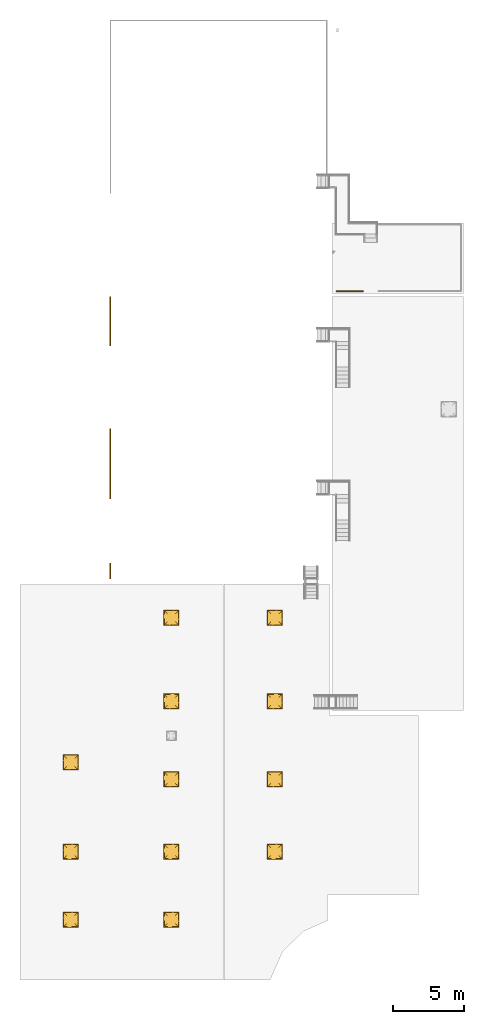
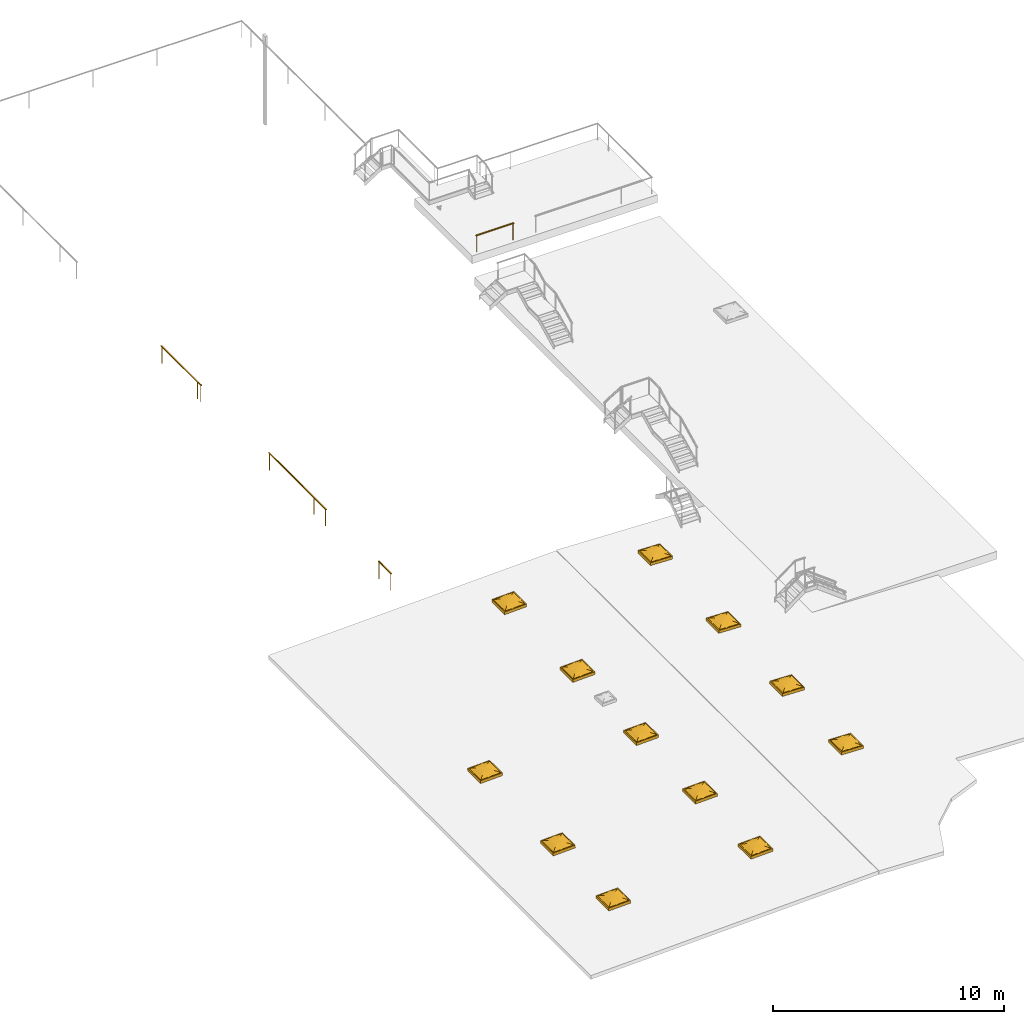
# One storey, part 5 of 15: 12 windows, 4 railings.
"""IFC2X3 building model written with IfcOpenShell, lengths in centimetres."""

import ifcopenshell
import ifcopenshell.guid

model = None  # the IFC model being written
_history = None  # IfcOwnerHistory: only IFC2X3 demands one
_inside = {}  # id of a spatial element -> (the spatial element, [elements in it])
_under = {}  # id of a project, library or spatial element -> (it, [spatial elements below it])
_declared = {}  # id of a project -> (the project, [libraries it declares])
_typed = {}  # id of a type object -> (the type object, [elements of that type])
_made_of = {}  # id of a material, layer set ... -> (it, [elements and type objects made of it])


def new_model(schema):
    """Start an empty IFC model of exactly this schema.

    Asked for "IFC4X3", IfcOpenShell would pick the latest addendum, in which some entities
    have other attributes; the version numbers below select the first issue.
    IFC2X3 requires an IfcOwnerHistory on every rooted entity: one is made here for all.
    """
    global model, _history
    if schema == "IFC4X3":
        model = ifcopenshell.file(schema_version=(4, 3, 0, 0))
    else:
        model = ifcopenshell.file(schema=schema)
    _inside.clear()
    _under.clear()
    _declared.clear()
    _typed.clear()
    _made_of.clear()
    _history = None
    if model.schema == "IFC2X3":
        org = make("IfcOrganization", Name="unknown")
        user = make(
            "IfcPersonAndOrganization",
            ThePerson=make("IfcPerson", FamilyName="unknown"),
            TheOrganization=org,
        )
        app = make(
            "IfcApplication",
            ApplicationDeveloper=org,
            Version="unknown",
            ApplicationFullName="unknown",
            ApplicationIdentifier="unknown",
        )
        _history = make(
            "IfcOwnerHistory",
            OwningUser=user,
            OwningApplication=app,
            ChangeAction="ADDED",
            CreationDate=0,
        )
    return model


def make(cls, **values):
    """One entity of the class cls with the attributes given. An attribute that is None is left unset."""
    return model.create_entity(
        cls, **{name: value for name, value in values.items() if value is not None}
    )


def entity(cls, *values):
    """Any entity or typed value of the class cls, its attributes in the order of the schema. None: left unset."""
    e = model.create_entity(cls)
    for i, value in enumerate(values):
        if value is not None:
            e[i] = value
    return e


def rooted(cls, **values):
    """An entity with a GlobalId (a new one), such as an element, a storey or a relation."""
    return make(cls, GlobalId=ifcopenshell.guid.new(), OwnerHistory=_history, **values)


def si_unit(unit_type, name, prefix=None):
    """IfcSIUnit, for example si_unit("LENGTHUNIT", "METRE", prefix="MILLI")."""
    return make("IfcSIUnit", UnitType=unit_type, Prefix=prefix, Name=name)


def converted_unit(unit_type, name, factor, base, dimensions=None, offset=None):
    """IfcConversionBasedUnit, such as the inch: factor (a typed value) times the base unit."""
    return make(
        "IfcConversionBasedUnit"
        if offset is None
        else "IfcConversionBasedUnitWithOffset",
        ConversionOffset=offset,
        Dimensions=None
        if dimensions is None
        else entity("IfcDimensionalExponents", *dimensions),
        UnitType=unit_type,
        Name=name,
        ConversionFactor=make(
            "IfcMeasureWithUnit", ValueComponent=factor, UnitComponent=base
        ),
    )


def derived_unit(unit_type, elements):
    """IfcDerivedUnit: a product of units, each with its exponent."""
    return make(
        "IfcDerivedUnit",
        Elements=[
            make("IfcDerivedUnitElement", Unit=unit, Exponent=power)
            for unit, power in elements
        ],
        UnitType=unit_type,
    )


def assignment(units):
    """IfcUnitAssignment: the units of a project."""
    return None if units is None else make("IfcUnitAssignment", Units=units)


def point(xyz):
    """IfcCartesianPoint."""
    return None if xyz is None else make("IfcCartesianPoint", Coordinates=xyz)


def direction(xyz):
    """IfcDirection."""
    return None if xyz is None else make("IfcDirection", DirectionRatios=xyz)


def frame(location, z_axis=None, x_axis=None):
    """IfcAxis2Placement3D, a coordinate frame: its origin and axes. An axis left out is left unset."""
    return make(
        "IfcAxis2Placement3D",
        Location=point(location),
        Axis=direction(z_axis),
        RefDirection=direction(x_axis),
    )


def frame_2d(location, x_axis=None):
    """IfcAxis2Placement2D, a coordinate frame in the plane: its origin and x axis."""
    return make(
        "IfcAxis2Placement2D", Location=point(location), RefDirection=direction(x_axis)
    )


def origin():
    """The frame at (0, 0, 0) with its axes left unset."""
    return frame((0.0, 0.0, 0.0))


def origin_2d_with_axis():
    """The frame at (0, 0) in the plane with the x axis (1, 0) written out."""
    return frame_2d((0.0, 0.0), x_axis=(1.0, 0.0))


def place(relative_to, where):
    """IfcLocalPlacement: puts the frame where relative to a parent placement (None: the world)."""
    return make(
        "IfcLocalPlacement", PlacementRelTo=relative_to, RelativePlacement=where
    )


def context(
    kind, dimensions, precision=None, world=None, true_north=None, identifier=None
):
    """IfcGeometricRepresentationContext, for example the 3D "Model" context."""
    return make(
        "IfcGeometricRepresentationContext",
        ContextIdentifier=identifier,
        ContextType=kind,
        CoordinateSpaceDimension=dimensions,
        Precision=precision,
        WorldCoordinateSystem=world,
        TrueNorth=true_north,
    )


def subcontext(parent, identifier, kind, view, scale=None):
    """IfcGeometricRepresentationSubContext, for example "Body" below "Model"."""
    return make(
        "IfcGeometricRepresentationSubContext",
        ContextIdentifier=identifier,
        ContextType=kind,
        ParentContext=parent,
        TargetScale=scale,
        TargetView=view,
    )


def project(units=None, contexts=None):
    """IfcProject with its units and contexts."""
    return rooted(
        "IfcProject",
        Name="project",
        RepresentationContexts=contexts,
        UnitsInContext=assignment(units),
    )


def spatial(cls, under=None, at=None, **own):
    """A site, building, storey or space (cls), placed at a placement, below another one or the project."""
    s = rooted(cls, ObjectPlacement=at, **own)
    if under is not None:
        _under.setdefault(under.id(), (under, []))[1].append(s)
    return s


def polyline(points):
    """IfcPolyline through the points."""
    return make("IfcPolyline", Points=[point(p) for p in points])


def profile(cls, at=None, kind="AREA", **sizes):
    """A parametric profile (cls). Its sizes go by their IFC names, for example OverallWidth=200.0."""
    return make(cls, ProfileType=kind, Position=at, **sizes)


def rectangle(**sizes):
    """IfcRectangleProfileDef."""
    return profile("IfcRectangleProfileDef", **sizes)


def outline(outer, holes=None, kind="AREA"):
    """IfcArbitraryClosedProfileDef: a profile drawn as a closed curve; with holes, ...WithVoids."""
    if holes is None:
        return make("IfcArbitraryClosedProfileDef", ProfileType=kind, OuterCurve=outer)
    return make(
        "IfcArbitraryProfileDefWithVoids",
        ProfileType=kind,
        OuterCurve=outer,
        InnerCurves=holes,
    )


def extrude(swept, where, along, depth):
    """IfcExtrudedAreaSolid: the profile swept, set in the frame where, extruded along a direction by depth."""
    return make(
        "IfcExtrudedAreaSolid",
        SweptArea=swept,
        Position=where,
        ExtrudedDirection=direction(along),
        Depth=depth,
    )


def faces_of(points, faces, orient=None, outer=None):
    """IfcFace entities. A face is a list of loops; a loop is a list of indices into points, from 0.

    orient and outer hold one flag for each loop. By default every Orientation is true, the
    first loop of a face is its IfcFaceOuterBound and the others are IfcFaceBound.
    """
    made = []
    for i, loops in enumerate(faces):
        bounds = []
        for j, loop in enumerate(loops):
            is_outer = j == 0 if outer is None else outer[i][j]
            bounds.append(
                make(
                    "IfcFaceOuterBound" if is_outer else "IfcFaceBound",
                    Bound=make("IfcPolyLoop", Polygon=[points[k] for k in loop]),
                    Orientation=True if orient is None else orient[i][j],
                )
            )
        made.append(make("IfcFace", Bounds=bounds))
    return made


def faceted_brep(points, faces, orient=None, outer=None, voids=None):
    """IfcFacetedBrep: a solid bounded by flat faces; with voids (closed shells), ...WithVoids."""
    shared = [point(p) for p in points]
    hull = make("IfcClosedShell", CfsFaces=faces_of(shared, faces, orient, outer))
    if voids is None:
        return make("IfcFacetedBrep", Outer=hull)
    return make(
        "IfcFacetedBrepWithVoids",
        Outer=hull,
        Voids=[
            make(cls, CfsFaces=faces_of(shared, fs, o, b)) for cls, fs, o, b in voids
        ],
    )


def shape(context_of_items, identifier, shape_type, items):
    """IfcShapeRepresentation: the items that make up one representation, for example the "Body"."""
    return make(
        "IfcShapeRepresentation",
        ContextOfItems=context_of_items,
        RepresentationIdentifier=identifier,
        RepresentationType=shape_type,
        Items=items,
    )


def source(mapping_origin, context_of_items, identifier, shape_type, items):
    """IfcRepresentationMap: a shape defined once, which mapped items show again and again."""
    return make(
        "IfcRepresentationMap",
        MappingOrigin=mapping_origin,
        MappedRepresentation=shape(context_of_items, identifier, shape_type, items),
    )


def transform(
    local_origin,
    x_axis=None,
    y_axis=None,
    z_axis=None,
    scale=None,
    scale2=None,
    scale3=None,
    uniform=True,
):
    """IfcCartesianTransformationOperator3D, or its non-uniform kind. x_axis, y_axis, z_axis: its Axis1, 2, 3."""
    if uniform:
        return make(
            "IfcCartesianTransformationOperator3D",
            Axis1=direction(x_axis),
            Axis2=direction(y_axis),
            LocalOrigin=point(local_origin),
            Scale=scale,
            Axis3=direction(z_axis),
        )
    return make(
        "IfcCartesianTransformationOperator3DnonUniform",
        Axis1=direction(x_axis),
        Axis2=direction(y_axis),
        LocalOrigin=point(local_origin),
        Scale=scale,
        Axis3=direction(z_axis),
        Scale2=scale2,
        Scale3=scale3,
    )


def mapped(mapping_source, mapping_target):
    """IfcMappedItem: shows the shape of a source again, moved by a transform."""
    return make(
        "IfcMappedItem", MappingSource=mapping_source, MappingTarget=mapping_target
    )


def material(Name=None, Category=None):
    """IfcMaterial."""
    return make("IfcMaterial", Name=Name, Category=Category)


def material_list(materials):
    """IfcMaterialList."""
    return make("IfcMaterialList", Materials=materials)


def made_of(thing, what):
    """Note that an element or type object is made of a material, layer set ...; save() writes the relation."""
    if what is not None:
        _made_of.setdefault(what.id(), (what, []))[1].append(thing)
    return thing


def type_object(cls, material=None, **own):
    """A type object (cls), such as IfcWallType, which elements share."""
    return made_of(rooted(cls, **own), material)


def type_shapes(of_type, sources):
    """Give a type object the sources (RepresentationMaps) that its elements show as mapped items."""
    of_type.RepresentationMaps = sources


def element(
    cls,
    number,
    at=None,
    inside=None,
    cuts=None,
    type_object=None,
    material=None,
    context=None,
    identifier="Body",
    shape_type=None,
    held_by="IfcProductDefinitionShape",
    body=None,
    shapes=None,
    **own,
):
    """One element of the class cls, such as IfcWall. Its Tag is "e" and its number.

    at: its placement. inside: the storey or other place that contains it. cuts: it is an
    opening in that element (IfcRelVoidsElement). A single representation is given by context,
    identifier, shape_type and body (its items); several are given by shapes. held_by: the class
    of the entity that holds the representations. save() writes the other relations.
    """
    e = rooted(cls, Tag="e%d" % number, ObjectPlacement=at, **own)
    if body is not None:
        shapes = [shape(context, identifier, shape_type, body)]
    if shapes is not None:
        e.Representation = make(held_by, Representations=shapes)
    if inside is not None:
        _inside.setdefault(inside.id(), (inside, []))[1].append(e)
    if cuts is not None:
        rooted(
            "IfcRelVoidsElement", RelatingBuildingElement=cuts, RelatedOpeningElement=e
        )
    if type_object is not None:
        _typed.setdefault(type_object.id(), (type_object, []))[1].append(e)
    return made_of(e, material)


def aggregate(whole, parts):
    """IfcRelAggregates: a whole, such as a stair, and the parts it consists of."""
    return rooted("IfcRelAggregates", RelatingObject=whole, RelatedObjects=parts)


def save(model, path):
    """Write the relations noted so far, then the file.

    IfcRelAggregates (storeys below a building ...), IfcRelContainedInSpatialStructure (elements
    in a storey), IfcRelDefinesByType, IfcRelAssociatesMaterial and IfcRelDeclares: one each for
    every whole, place, type object, material and project.
    """
    for whole, parts in _under.values():
        aggregate(whole, parts)
    for where, things in _inside.values():
        rooted(
            "IfcRelContainedInSpatialStructure",
            RelatedElements=things,
            RelatingStructure=where,
        )
    for kind, things in _typed.values():
        rooted("IfcRelDefinesByType", RelatedObjects=things, RelatingType=kind)
    for what, things in _made_of.values():
        rooted("IfcRelAssociatesMaterial", RelatedObjects=things, RelatingMaterial=what)
    for by, libraries in _declared.values():
        rooted("IfcRelDeclares", RelatingContext=by, RelatedDefinitions=libraries)
    model.write(path)


model = new_model("IFC2X3")

# Units and contexts
model_context = context("Model", 3, precision=0.001, world=origin(), true_north=direction((6.12303176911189e-17, 1.0)))
body_context = subcontext(model_context, "Body", "Model", "MODEL_VIEW")
ifc_project = project(units=[si_unit("LENGTHUNIT", "METRE", prefix="CENTI"), si_unit("AREAUNIT", "SQUARE_METRE"), si_unit("VOLUMEUNIT", "CUBIC_METRE"), converted_unit("PLANEANGLEUNIT", "DEGREE", entity("IfcRatioMeasure", 0.0174532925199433), si_unit("PLANEANGLEUNIT", "RADIAN"), dimensions=[0, 0, 0, 0, 0, 0, 0]), si_unit("MASSUNIT", "GRAM", prefix="KILO"), si_unit("TIMEUNIT", "SECOND"), si_unit("FREQUENCYUNIT", "HERTZ"), si_unit("THERMODYNAMICTEMPERATUREUNIT", "DEGREE_CELSIUS"), derived_unit("THERMALTRANSMITTANCEUNIT", [(si_unit("MASSUNIT", "GRAM", prefix="KILO"), 1), (si_unit("THERMODYNAMICTEMPERATUREUNIT", "KELVIN"), -1), (si_unit("TIMEUNIT", "SECOND"), -3)]), derived_unit("VOLUMETRICFLOWRATEUNIT", [(si_unit("LENGTHUNIT", "METRE"), 3), (si_unit("TIMEUNIT", "SECOND"), -1)]), si_unit("ELECTRICCURRENTUNIT", "AMPERE"), si_unit("ELECTRICVOLTAGEUNIT", "VOLT"), si_unit("POWERUNIT", "WATT"), si_unit("FORCEUNIT", "NEWTON", prefix="KILO"), si_unit("ILLUMINANCEUNIT", "LUX"), si_unit("LUMINOUSFLUXUNIT", "LUMEN"), si_unit("LUMINOUSINTENSITYUNIT", "CANDELA"), derived_unit("USERDEFINED", [(si_unit("MASSUNIT", "GRAM", prefix="KILO"), -1), (si_unit("LENGTHUNIT", "METRE"), -2), (si_unit("TIMEUNIT", "SECOND"), 3), (si_unit("LUMINOUSFLUXUNIT", "LUMEN"), 1)]), derived_unit("LINEARVELOCITYUNIT", [(si_unit("LENGTHUNIT", "METRE"), 1), (si_unit("TIMEUNIT", "SECOND"), -1)]), si_unit("PRESSUREUNIT", "PASCAL"), derived_unit("USERDEFINED", [(si_unit("LENGTHUNIT", "METRE"), -2), (si_unit("MASSUNIT", "GRAM", prefix="KILO"), 1), (si_unit("TIMEUNIT", "SECOND"), -2)])], contexts=[model_context])

# Site, building, storey
site_placement = place(None, frame((8.62739174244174, -249.285249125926, 0.0)))
site = spatial("IfcSite", under=ifc_project, at=site_placement, Name="Default", CompositionType="ELEMENT")
building_placement = place(site_placement, origin())
building = spatial("IfcBuilding", under=site, at=building_placement, CompositionType="ELEMENT")
storey_placement = place(building_placement, frame((0.0, 0.0, 801.0)))
storey = spatial("IfcBuildingStorey", under=building, at=storey_placement, Name="Acrotère E3", CompositionType="ELEMENT", Elevation=801.0)

# Windows
ifc_material_1 = material(Name="Verre")
ifc_material_2 = material(Name="Métal - Aluminium")
ifc_material_list_1 = material_list([ifc_material_1, ifc_material_2])
ifc_material_list_2 = material_list([ifc_material_1, ifc_material_2])
window_style = type_object("IfcWindowStyle", Name="1000mm x 1000mm", ConstructionType="NOTDEFINED", OperationType="NOTDEFINED", ParameterTakesPrecedence=False, Sizeable=False, material=ifc_material_list_2)
shared_shape = source(origin(), body_context, "Body", "Brep", [
    faceted_brep([(-8.01000000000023, -25.9900000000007, 410.759999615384), (-7.99000000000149, -25.9900000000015, 410.759999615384), (2.26188191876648, -15.7381180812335, 410.354343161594), (-18.2618819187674, -15.7381180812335, 410.354343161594), (12.4498452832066, -5.55015471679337, 409.141477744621), (-28.4498452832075, -5.55015471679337, 409.141477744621), (22.5104319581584, 4.5104319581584, 407.128957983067), (-38.5104319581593, 4.5104319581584, 407.128957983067), (4.94759751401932, 24.0, 400.759999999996), (-48.3809772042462, 14.3809772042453, 404.329319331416), (32.3809772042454, 14.3809772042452, 404.329319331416), (42.0, 24.0, 400.759999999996), (-58.0, 24.0, 400.759999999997), (-58.0, 24.0, 400.193095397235), (42.0, 24.0, 400.193095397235), (-20.820830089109, 24.0, 400.193095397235), (-48.3842611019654, 14.3842611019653, 403.777786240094), (-38.5148298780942, 4.51482987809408, 406.589684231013), (22.5148298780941, 4.51482987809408, 406.589684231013), (32.3842611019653, 14.3842611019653, 403.777786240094), (12.4537057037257, -5.5462942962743, 408.611125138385), (-28.4537057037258, -5.5462942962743, 408.611125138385), (-18.2640921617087, -15.7359078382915, 409.829410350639), (2.26409216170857, -15.7359078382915, 409.829410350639), (-8.01000000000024, -25.9899999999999, 410.236886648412), (-7.98999999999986, -25.9899999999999, 410.236886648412), (-7.99000000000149, -26.0099999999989, 410.759999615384), (2.26188191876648, -36.2618819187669, 410.354343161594), (12.4498452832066, -46.4498452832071, 409.141477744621), (22.5104319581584, -56.5104319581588, 407.128957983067), (42.0, -38.9475975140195, 400.759999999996), (32.3809772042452, -66.3809772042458, 404.329319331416), (42.0, -76.0, 400.759999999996), (42.0, -76.0, 400.193095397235), (42.0, -13.1791699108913, 400.193095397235), (22.5148298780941, -56.5148298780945, 406.589684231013), (32.3842611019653, -66.3842611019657, 403.777786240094), (12.4537057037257, -46.4537057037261, 408.611125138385), (2.26409216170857, -36.264092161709, 409.829410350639), (-7.98999999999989, -26.0100000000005, 410.236886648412), (-8.00999999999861, -26.0099999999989, 410.759999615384), (-18.2618819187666, -36.2618819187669, 410.354343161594), (-28.4498452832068, -46.449845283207, 409.141477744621), (-38.5104319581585, -56.5104319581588, 407.128957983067), (-20.9475975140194, -76.0, 400.759999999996), (-48.3809772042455, -66.3809772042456, 404.329319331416), (-58.0, -76.0, 400.759999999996), (-58.0, -76.0, 400.193095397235), (4.82083008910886, -76.0, 400.193095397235), (-38.5148298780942, -56.5148298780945, 406.589684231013), (-48.3842611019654, -66.3842611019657, 403.777786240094), (-28.4537057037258, -46.4537057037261, 408.611125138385), (-18.2640921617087, -36.264092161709, 409.829410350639), (-8.01000000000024, -26.0100000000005, 410.236886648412), (-58.0, -13.052402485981, 400.759999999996), (-58.0, -38.8208300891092, 400.193095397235)], [[[0, 1, 2, 3]], [[3, 2, 4, 5]], [[4, 6, 7, 5]], [[8, 9, 7]], [[6, 10, 8]], [[10, 11, 8]], [[9, 8, 12]], [[7, 6, 8]], [[13, 12, 8, 11, 14, 15]], [[16, 15, 17]], [[18, 17, 15]], [[13, 15, 16]], [[15, 14, 19]], [[19, 18, 15]], [[18, 20, 21, 17]], [[22, 21, 20, 23]], [[24, 22, 23, 25]], [[0, 24, 25, 1]], [[1, 26, 27, 2]], [[2, 27, 28, 4]], [[28, 29, 6, 4]], [[30, 10, 6]], [[29, 31, 30]], [[31, 32, 30]], [[10, 30, 11]], [[6, 29, 30]], [[11, 30, 32, 33, 34, 14]], [[19, 34, 18]], [[35, 18, 34]], [[14, 34, 19]], [[34, 33, 36]], [[36, 35, 34]], [[35, 37, 20, 18]], [[23, 20, 37, 38]], [[25, 23, 38, 39]], [[1, 25, 39, 26]], [[26, 40, 41, 27]], [[27, 41, 42, 28]], [[42, 43, 29, 28]], [[44, 31, 29]], [[43, 45, 44]], [[45, 46, 44]], [[31, 44, 32]], [[29, 43, 44]], [[32, 44, 46, 47, 48, 33]], [[36, 48, 35]], [[49, 35, 48]], [[33, 48, 36]], [[48, 47, 50]], [[50, 49, 48]], [[49, 51, 37, 35]], [[38, 37, 51, 52]], [[39, 38, 52, 53]], [[26, 39, 53, 40]], [[40, 0, 3, 41]], [[41, 3, 5, 42]], [[5, 7, 43, 42]], [[54, 45, 43]], [[7, 9, 54]], [[9, 12, 54]], [[45, 54, 46]], [[43, 7, 54]], [[47, 46, 54, 12, 13, 55]], [[50, 55, 49]], [[17, 49, 55]], [[47, 55, 50]], [[55, 13, 16]], [[16, 17, 55]], [[17, 21, 51, 49]], [[52, 51, 21, 22]], [[53, 52, 22, 24]], [[40, 53, 24, 0]]]),
    faceted_brep([(-63.0, -81.0, 400.76), (-63.0, -81.0, 385.76), (47.0, -81.0, 385.76), (47.0, -81.0, 400.76), (-58.0, -76.0, 400.76), (42.0, -76.0, 400.76), (-58.0, -76.0, 385.76), (42.0, -76.0, 385.76), (47.0, 29.0, 385.76), (47.0, 29.0, 400.76), (42.0, 24.0, 400.76), (42.0, 24.0, 385.76), (-63.0, 29.0, 385.76), (-63.0, 29.0, 400.76), (-58.0, 24.0, 400.76), (-58.0, 24.0, 385.76)], [[[0, 1, 2, 3]], [[4, 0, 3, 5]], [[6, 4, 5, 7]], [[1, 6, 7, 2]], [[3, 2, 8, 9]], [[5, 3, 9, 10]], [[7, 5, 10, 11]], [[2, 7, 11, 8]], [[9, 8, 12, 13]], [[10, 9, 13, 14]], [[11, 10, 14, 15]], [[8, 11, 15, 12]], [[13, 12, 1, 0]], [[14, 13, 0, 4]], [[15, 14, 4, 6]], [[12, 15, 6, 1]]]),
])
type_shapes(window_style, [shared_shape])
window_1_placement = place(storey_placement, frame((1248.84180708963, 1170.0, -442.255340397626), z_axis=(-0.0348994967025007, 0.0, 0.999390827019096), x_axis=(0.0, -1.0, 0.0)))
element("IfcWindow", 1, at=window_1_placement, inside=storey, type_object=window_style, material=ifc_material_list_1, Name="Skydome:1000mm x 1000mm", ObjectType="1000mm x 1000mm", OverallHeight=1062.58505615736, OverallWidth=124.715041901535, context=body_context, shape_type="MappedRepresentation", body=[
    mapped(shared_shape, transform((0.0, 0.0, 0.0), scale=1.0)),
])
ifc_material_list_3 = material_list([ifc_material_1, ifc_material_2])
window_2_placement = place(storey_placement, frame((1248.84180708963, 1650.0, -442.255340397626), z_axis=(-0.0348994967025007, 0.0, 0.999390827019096), x_axis=(0.0, -1.0, 0.0)))
element("IfcWindow", 2, at=window_2_placement, inside=storey, type_object=window_style, material=ifc_material_list_3, Name="Skydome:1000mm x 1000mm", ObjectType="1000mm x 1000mm", OverallHeight=1062.58505615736, OverallWidth=124.715041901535, context=body_context, shape_type="MappedRepresentation", body=[
    mapped(shared_shape, transform((0.0, 0.0, 0.0), scale=1.0)),
])
ifc_material_list_4 = material_list([ifc_material_1, ifc_material_2])
window_3_placement = place(storey_placement, frame((1248.84180708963, 2280.0, -442.255340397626), z_axis=(-0.0348994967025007, 0.0, 0.999390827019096), x_axis=(0.0, -1.0, 0.0)))
element("IfcWindow", 3, at=window_3_placement, inside=storey, type_object=window_style, material=ifc_material_list_4, Name="Skydome:1000mm x 1000mm", ObjectType="1000mm x 1000mm", OverallHeight=1062.58505615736, OverallWidth=124.715041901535, context=body_context, shape_type="MappedRepresentation", body=[
    mapped(shared_shape, transform((0.0, 0.0, 0.0), scale=1.0)),
])
ifc_material_list_5 = material_list([ifc_material_1, ifc_material_2])
window_4_placement = place(storey_placement, frame((1958.84180708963, 1170.0, -417.461594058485), z_axis=(-0.0348994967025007, 0.0, 0.999390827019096), x_axis=(0.0, -1.0, 0.0)))
element("IfcWindow", 4, at=window_4_placement, inside=storey, type_object=window_style, material=ifc_material_list_5, Name="Skydome:1000mm x 1000mm", ObjectType="1000mm x 1000mm", OverallHeight=1062.58505615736, OverallWidth=124.715041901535, context=body_context, shape_type="MappedRepresentation", body=[
    mapped(shared_shape, transform((0.0, 0.0, 0.0), scale=1.0)),
])
ifc_material_list_6 = material_list([ifc_material_1, ifc_material_2])
window_5_placement = place(storey_placement, frame((1958.84180708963, 1650.0, -417.461594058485), z_axis=(-0.0348994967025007, 0.0, 0.999390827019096), x_axis=(0.0, -1.0, 0.0)))
element("IfcWindow", 5, at=window_5_placement, inside=storey, type_object=window_style, material=ifc_material_list_6, Name="Skydome:1000mm x 1000mm", ObjectType="1000mm x 1000mm", OverallHeight=1062.58505615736, OverallWidth=124.715041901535, context=body_context, shape_type="MappedRepresentation", body=[
    mapped(shared_shape, transform((0.0, 0.0, 0.0), scale=1.0)),
])
ifc_material_list_7 = material_list([ifc_material_1, ifc_material_2])
window_6_placement = place(storey_placement, frame((1958.84180708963, 2160.0, -417.461594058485), z_axis=(-0.0348994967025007, 0.0, 0.999390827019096), x_axis=(0.0, -1.0, 0.0)))
element("IfcWindow", 6, at=window_6_placement, inside=storey, type_object=window_style, material=ifc_material_list_7, Name="Skydome:1000mm x 1000mm", ObjectType="1000mm x 1000mm", OverallHeight=1062.58505615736, OverallWidth=124.715041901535, context=body_context, shape_type="MappedRepresentation", body=[
    mapped(shared_shape, transform((0.0, 0.0, 0.0), scale=1.0)),
])
ifc_material_list_8 = material_list([ifc_material_1, ifc_material_2])
window_7_placement = place(storey_placement, frame((1958.84180708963, 2710.0, -417.461594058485), z_axis=(-0.0348994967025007, 0.0, 0.999390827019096), x_axis=(0.0, -1.0, 0.0)))
element("IfcWindow", 7, at=window_7_placement, inside=storey, type_object=window_style, material=ifc_material_list_8, Name="Skydome:1000mm x 1000mm", ObjectType="1000mm x 1000mm", OverallHeight=1062.58505615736, OverallWidth=124.715041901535, context=body_context, shape_type="MappedRepresentation", body=[
    mapped(shared_shape, transform((0.0, 0.0, 0.0), scale=1.0)),
])
ifc_material_list_9 = material_list([ifc_material_1, ifc_material_2])
window_8_placement = place(storey_placement, frame((1958.84180708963, 3300.0, -417.461594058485), z_axis=(-0.0348994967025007, 0.0, 0.999390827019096), x_axis=(0.0, -1.0, 0.0)))
element("IfcWindow", 8, at=window_8_placement, inside=storey, type_object=window_style, material=ifc_material_list_9, Name="Skydome:1000mm x 1000mm", ObjectType="1000mm x 1000mm", OverallHeight=1062.58505615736, OverallWidth=124.715041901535, context=body_context, shape_type="MappedRepresentation", body=[
    mapped(shared_shape, transform((0.0, 0.0, 0.0), scale=1.0)),
])
ifc_material_list_10 = material_list([ifc_material_1, ifc_material_2])
window_9_placement = place(storey_placement, frame((2660.80212726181, 1650.0, -418.802690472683), z_axis=(0.0348994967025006, 0.0, 0.999390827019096), x_axis=(0.0, -1.0, 0.0)))
element("IfcWindow", 9, at=window_9_placement, inside=storey, type_object=window_style, material=ifc_material_list_10, Name="Skydome:1000mm x 1000mm", ObjectType="1000mm x 1000mm", OverallHeight=1062.58505615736, OverallWidth=124.715041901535, context=body_context, shape_type="MappedRepresentation", body=[
    mapped(shared_shape, transform((0.0, 0.0, 0.0), scale=1.0)),
])
ifc_material_list_11 = material_list([ifc_material_1, ifc_material_2])
window_10_placement = place(storey_placement, frame((2660.80212726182, 2160.0, -418.802690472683), z_axis=(0.0348994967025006, 0.0, 0.999390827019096), x_axis=(0.0, -1.0, 0.0)))
element("IfcWindow", 10, at=window_10_placement, inside=storey, type_object=window_style, material=ifc_material_list_11, Name="Skydome:1000mm x 1000mm", ObjectType="1000mm x 1000mm", OverallHeight=1062.58505615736, OverallWidth=124.715041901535, context=body_context, shape_type="MappedRepresentation", body=[
    mapped(shared_shape, transform((0.0, 0.0, 0.0), scale=1.0)),
])
ifc_material_list_12 = material_list([ifc_material_1, ifc_material_2])
window_11_placement = place(storey_placement, frame((2660.80212726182, 2710.0, -418.802690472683), z_axis=(0.0348994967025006, 0.0, 0.999390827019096), x_axis=(0.0, -1.0, 0.0)))
element("IfcWindow", 11, at=window_11_placement, inside=storey, type_object=window_style, material=ifc_material_list_12, Name="Skydome:1000mm x 1000mm", ObjectType="1000mm x 1000mm", OverallHeight=1062.58505615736, OverallWidth=124.715041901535, context=body_context, shape_type="MappedRepresentation", body=[
    mapped(shared_shape, transform((0.0, 0.0, 0.0), scale=1.0)),
])
ifc_material_list_13 = material_list([ifc_material_1, ifc_material_2])
window_12_placement = place(storey_placement, frame((2660.80212726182, 3300.0, -418.802690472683), z_axis=(0.0348994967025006, 0.0, 0.999390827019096), x_axis=(0.0, -1.0, 0.0)))
element("IfcWindow", 12, at=window_12_placement, inside=storey, type_object=window_style, material=ifc_material_list_13, Name="Skydome:1000mm x 1000mm", ObjectType="1000mm x 1000mm", OverallHeight=1062.58505615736, OverallWidth=124.715041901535, context=body_context, shape_type="MappedRepresentation", body=[
    mapped(shared_shape, transform((0.0, 0.0, 0.0), scale=1.0)),
])

# Railings
ifc_material_3 = material(Name="Peinture - Grise")
ifc_material_4 = material(Name="Pin (1)")
ifc_material_list_14 = material_list([ifc_material_3, ifc_material_4])
railing_1_placement = place(storey_placement, origin())
element("IfcRailing", 13, at=railing_1_placement, inside=storey, material=ifc_material_list_14, Name="Garde-corps:Type Bateau", ObjectType="Garde-corps:Type Bateau", PredefinedType="NOTDEFINED", context=body_context, shape_type="SweptSolid", body=[
    extrude(rectangle(XDim=1.19999999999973, YDim=3.99999999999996, at=origin_2d_with_axis()), frame((1488.9048277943, 5260.44979079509, 20.0), z_axis=(0.0, 0.0, 1.0), x_axis=(0.0, 1.0, 0.0)), (0.0, 0.0, 1.0), 86.9846532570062),
    extrude(rectangle(XDim=1.19999999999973, YDim=3.99999999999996, at=origin_2d_with_axis()), frame((1488.9048277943, 5232.47723577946, 20.0), z_axis=(0.0, 0.0, 1.0), x_axis=(0.0, 1.0, 0.0)), (0.0, 0.0, 1.0), 86.9846532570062),
    extrude(rectangle(XDim=1.19999999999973, YDim=3.99999999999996, at=origin_2d_with_axis()), frame((1488.9048277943, 5568.42234581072, 20.0), z_axis=(0.0, 0.0, 1.0), x_axis=(0.0, 1.0, 0.0)), (0.0, 0.0, 1.0), 86.9846532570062),
    extrude(outline(polyline([(-1.09067895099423, -3.84843077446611), (0.177588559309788, -3.84843077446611), (1.41514939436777, -3.18300213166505), (2.40801804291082, -1.96720350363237), (2.98451849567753, -0.41125751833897), (3.0449685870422, 1.21579862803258), (2.57891594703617, 2.63263214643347), (1.66694531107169, 3.59425965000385), (1.09067895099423, 3.84843077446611), (-0.177588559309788, 3.84843077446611), (-1.41514939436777, 3.18300213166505), (-2.40801804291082, 1.96720350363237), (-2.98451849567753, 0.41125751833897), (-3.0449685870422, -1.21579862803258), (-2.57891594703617, -2.63263214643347), (-1.66694531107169, -3.59425965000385), (-1.09067895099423, -3.84843077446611)])), frame((1488.9048277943, 5227.47723577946, 110.0), z_axis=(0.0, 1.0, 0.0), x_axis=(0.27266973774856, 0.0, 0.962107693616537)), (0.0, 0.0, 1.0), 345.945110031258),
])
ifc_material_list_15 = material_list([ifc_material_3, ifc_material_4])
railing_2_placement = place(storey_placement, origin())
element("IfcRailing", 14, at=railing_2_placement, inside=storey, material=ifc_material_list_15, Name="Garde-corps:Type Bateau", ObjectType="Garde-corps:Type Bateau", PredefinedType="NOTDEFINED", context=body_context, shape_type="SweptSolid", body=[
    extrude(rectangle(XDim=1.19999999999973, YDim=3.99999999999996, at=origin_2d_with_axis()), frame((1488.9048277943, 4254.41058401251, 20.0), z_axis=(0.0, 0.0, 1.0), x_axis=(0.0, 1.0, 0.0)), (0.0, 0.0, 1.0), 86.9846532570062),
    extrude(rectangle(XDim=1.19999999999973, YDim=3.99999999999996, at=origin_2d_with_axis()), frame((1488.9048277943, 4151.47531195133, 20.0), z_axis=(0.0, 0.0, 1.0), x_axis=(0.0, 1.0, 0.0)), (0.0, 0.0, 1.0), 86.9846532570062),
    extrude(rectangle(XDim=1.19999999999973, YDim=3.99999999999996, at=origin_2d_with_axis()), frame((1488.9048277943, 4637.34585607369, 20.0), z_axis=(0.0, 0.0, 1.0), x_axis=(0.0, 1.0, 0.0)), (0.0, 0.0, 1.0), 86.9846532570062),
    extrude(outline(polyline([(-1.09067895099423, -3.84843077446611), (0.177588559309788, -3.84843077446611), (1.41514939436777, -3.18300213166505), (2.40801804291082, -1.96720350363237), (2.98451849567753, -0.41125751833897), (3.0449685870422, 1.21579862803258), (2.57891594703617, 2.63263214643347), (1.66694531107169, 3.59425965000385), (1.09067895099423, 3.84843077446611), (-0.177588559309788, 3.84843077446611), (-1.41514939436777, 3.18300213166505), (-2.40801804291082, 1.96720350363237), (-2.98451849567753, 0.41125751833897), (-3.0449685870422, -1.21579862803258), (-2.57891594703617, -2.63263214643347), (-1.66694531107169, -3.59425965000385), (-1.09067895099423, -3.84843077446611)])), frame((1488.9048277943, 4146.47531195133, 110.0), z_axis=(0.0, 1.0, 0.0), x_axis=(0.27266973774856, 0.0, 0.962107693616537)), (0.0, 0.0, 1.0), 495.870544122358),
])
ifc_material_list_16 = material_list([ifc_material_3, ifc_material_4])
railing_3_placement = place(storey_placement, origin())
element("IfcRailing", 15, at=railing_3_placement, inside=storey, material=ifc_material_list_16, Name="Garde-corps:Type Bateau", ObjectType="Garde-corps:Type Bateau", PredefinedType="NOTDEFINED", context=body_context, shape_type="SweptSolid", body=[
    extrude(rectangle(XDim=1.20000000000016, YDim=3.99999999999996, at=frame_2d((-2.16604512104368e-13, 0.0), x_axis=(1.0, 0.0))), frame((1488.9048277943, 3588.83351593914, 22.5286623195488), z_axis=(0.0, 0.0, 1.0), x_axis=(0.0, 1.0, 0.0)), (0.0, 0.0, 1.0), 86.9846532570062),
    extrude(rectangle(XDim=1.20000000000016, YDim=3.99999999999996, at=frame_2d((2.16604512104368e-13, 0.0), x_axis=(1.0, 0.0))), frame((1488.9048277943, 3688.83351593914, 22.5286623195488), z_axis=(0.0, 0.0, 1.0), x_axis=(0.0, 1.0, 0.0)), (0.0, 0.0, 1.0), 86.9846532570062),
    extrude(outline(polyline([(-1.09067895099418, -3.84843077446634), (0.177588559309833, -3.84843077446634), (1.41514939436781, -3.18300213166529), (2.40801804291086, -1.9672035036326), (2.98451849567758, -0.411257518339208), (3.04496858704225, 1.21579862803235), (2.57891594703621, 2.63263214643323), (1.66694531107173, 3.59425965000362), (1.09067895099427, 3.84843077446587), (-0.177588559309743, 3.84843077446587), (-1.41514939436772, 3.18300213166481), (-2.40801804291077, 1.96720350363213), (-2.98451849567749, 0.411257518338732), (-3.04496858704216, -1.21579862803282), (-2.57891594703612, -2.63263214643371), (-1.66694531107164, -3.59425965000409), (-1.09067895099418, -3.84843077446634)])), frame((1488.9048277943, 3583.83351593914, 112.528662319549), z_axis=(0.0, 1.0, 0.0), x_axis=(0.27266973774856, 0.0, 0.962107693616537)), (0.0, 0.0, 1.0), 110.0),
])
ifc_material_list_17 = material_list([ifc_material_3, ifc_material_4])
railing_4_placement = place(storey_placement, origin())
element("IfcRailing", 16, at=railing_4_placement, inside=storey, material=ifc_material_list_17, Name="Garde-corps:Type Bateau", ObjectType="Garde-corps:Type Bateau", PredefinedType="NOTDEFINED", context=body_context, shape_type="SweptSolid", body=[
    extrude(rectangle(XDim=1.20000000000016, YDim=3.99999999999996, at=frame_2d((2.16604512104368e-13, -4.33209024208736e-13), x_axis=(1.0, 0.0))), frame((3087.90482780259, 5613.09846883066, 20.0)), (0.0, 0.0, 1.0), 86.9846532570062),
    extrude(rectangle(XDim=1.20000000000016, YDim=3.99999999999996, at=frame_2d((2.16604512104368e-13, -4.33209024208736e-13), x_axis=(1.0, 0.0))), frame((3267.90482780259, 5613.09846883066, 20.0)), (0.0, 0.0, 1.0), 86.9846532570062),
    extrude(outline(polyline([(-1.09067895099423, -3.84843077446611), (0.177588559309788, -3.84843077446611), (1.41514939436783, -3.18300213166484), (2.40801804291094, -1.96720350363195), (2.98451849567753, -0.41125751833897), (3.04496858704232, 1.215798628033), (2.57891594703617, 2.63263214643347), (1.66694531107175, 3.59425965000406), (1.09067895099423, 3.84843077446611), (-0.177588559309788, 3.84843077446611), (-1.41514939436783, 3.18300213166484), (-2.40801804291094, 1.96720350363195), (-2.98451849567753, 0.41125751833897), (-3.04496858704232, -1.215798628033), (-2.57891594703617, -2.63263214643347), (-1.66694531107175, -3.59425965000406), (-1.09067895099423, -3.84843077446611)])), frame((3082.90482780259, 5613.09846883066, 110.0), z_axis=(1.0, 0.0, 0.0), x_axis=(0.0, -0.27266973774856, 0.962107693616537)), (0.0, 0.0, 1.0), 190.0),
])

save(model, "model.ifc")
